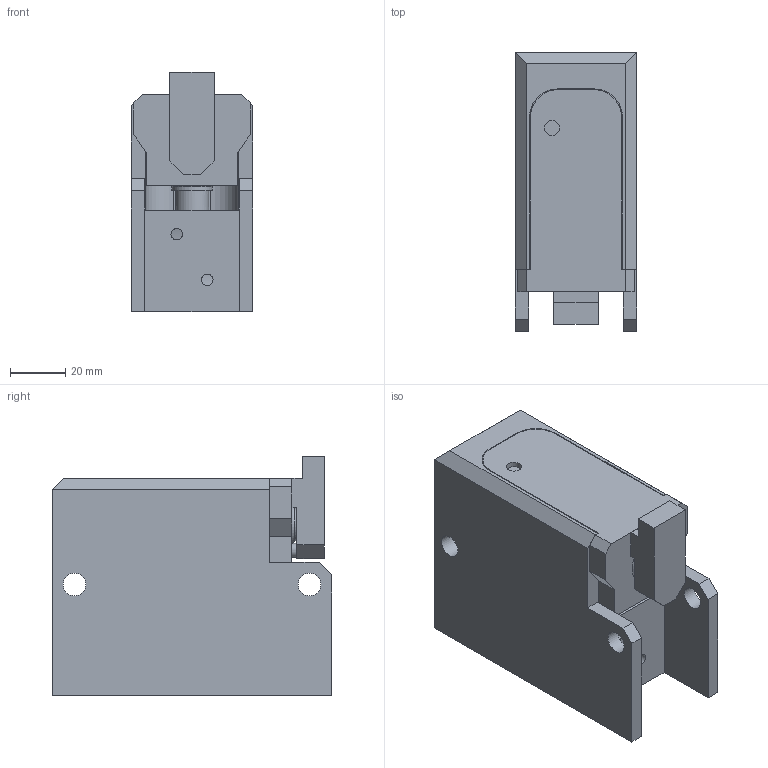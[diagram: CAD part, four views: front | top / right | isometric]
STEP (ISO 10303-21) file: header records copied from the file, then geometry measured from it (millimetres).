
FILE_DESCRIPTION(/* description */ ('Stopper SD-100-DW-08'),/* implementation_level */ '2;1');
FILE_NAME(/* name */ 'C:\Marketing\01_Versamove-SPU_STEP-Dateien-Homepage\Versamove plus\Stopper\K503022101_Stopper_SD-100-DW-08.stp',/* time_stamp */ '2017-02-01T13:48:28+01:00',/* author */ ('herbert.engels'),/* organization */ (''),/* preprocessor_version */ 'ST-DEVELOPER v15.6',/* originating_system */ 'Autodesk Inventor 2015',/* authorisation */ '');
FILE_SCHEMA (('CONFIG_CONTROL_DESIGN'));
Length unit declared in the file: millimetre
Products named in the file (1): T-ENG556647
Bounding box: 44 x 101 x 86.5 mm (x, y, z)
Volume: 267291.1 mm3; surface area: 57166.1 mm2
Topology: 1 solids, 2 shells, 100 faces, 246 edges, 165 vertices
Faces by surface type: plane 66, cylinder 31, torus 2, cone 1
Full cylindrical faces by diameter (mm): 2.5 x2, 4.2 x2, 5.03 x1, 5.1 x1, 5.5 x1, 8.2 x3, 12 x2, 12.03 x1, 12.05 x1, 14.5 x1, 25 x1, 39.9 x1, 40.05 x2, 42.55 x1
Entity records: 3005 total; most frequent: CARTESIAN_POINT 558, DIRECTION 471, ORIENTED_EDGE 424, EDGE_CURVE 212, AXIS2_PLACEMENT_3D 162, VERTEX_POINT 154, EDGE_LOOP 150, LINE 147
